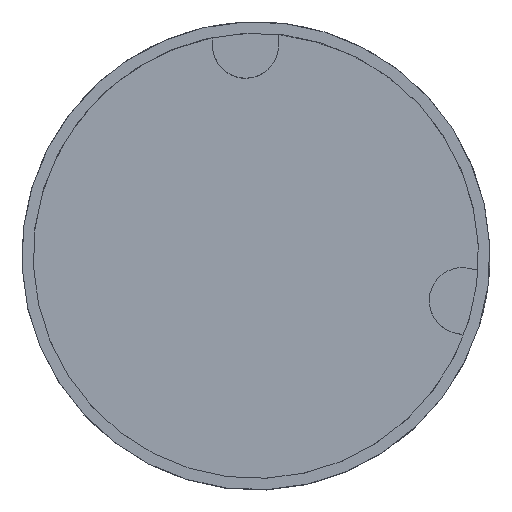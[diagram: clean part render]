
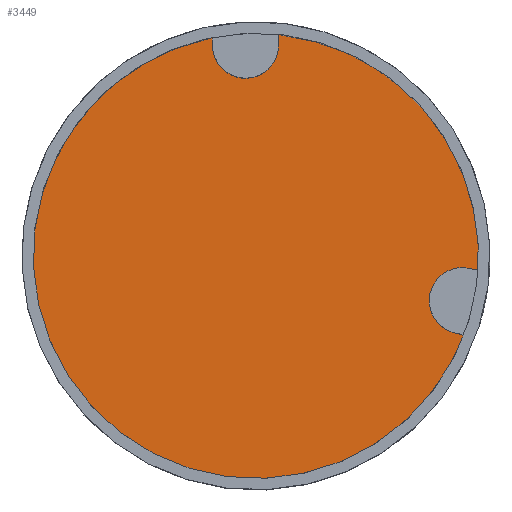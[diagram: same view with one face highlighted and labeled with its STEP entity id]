
A CAD part, top view. The second image highlights one B-rep face of the part: STEP entity #3449.
In plain terms, the highlighted planar face has unit normal (0, 0, 1) as drawn and (0, 0, -1) by its records, which use the part's own axes.
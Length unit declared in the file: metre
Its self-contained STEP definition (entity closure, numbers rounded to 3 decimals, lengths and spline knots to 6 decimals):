
#20 = PLANE ( 'NONE',  #2864 ) ;
#32 = AXIS2_PLACEMENT_3D ( 'NONE', #1833, #3320, #2413 ) ;
#51 = CIRCLE ( 'NONE', #677, 0.0195 ) ;
#165 = CARTESIAN_POINT ( 'NONE',  ( 0., 0., 0.0172 ) ) ;
#179 = VERTEX_POINT ( 'NONE', #1587 ) ;
#206 = AXIS2_PLACEMENT_3D ( 'NONE', #3437, #526, #1392 ) ;
#224 = CARTESIAN_POINT ( 'NONE',  ( -0.01862, -0.001987, 0.0172 ) ) ;
#260 = LINE ( 'NONE', #1312, #2318 ) ;
#424 = ORIENTED_EDGE ( 'NONE', *, *, #1628, .F. ) ;
#435 = CIRCLE ( 'NONE', #3010, 0.0195 ) ;
#472 = DIRECTION ( 'NONE',  ( -0.966, -0.259, 0. ) ) ;
#524 = VERTEX_POINT ( 'NONE', #3164 ) ;
#526 = DIRECTION ( 'NONE',  ( 0., 0., -1. ) ) ;
#545 = CARTESIAN_POINT ( 'NONE',  ( 0., 0., 0.0172 ) ) ;
#547 = VERTEX_POINT ( 'NONE', #224 ) ;
#597 = EDGE_CURVE ( 'NONE', #3571, #179, #435, .T. ) ;
#645 = DIRECTION ( 'NONE',  ( 0., 0., 1. ) ) ;
#677 = AXIS2_PLACEMENT_3D ( 'NONE', #165, #1037, #1010 ) ;
#727 = LINE ( 'NONE', #782, #2684 ) ;
#782 = CARTESIAN_POINT ( 'NONE',  ( -0.0029, 0.018892, 0.0172 ) ) ;
#810 = CIRCLE ( 'NONE', #2734, 0.0195 ) ;
#846 = CARTESIAN_POINT ( 'NONE',  ( 0., 0., 0.0172 ) ) ;
#854 = ORIENTED_EDGE ( 'NONE', *, *, #3785, .F. ) ;
#860 = CIRCLE ( 'NONE', #1585, 0.0195 ) ;
#891 = VERTEX_POINT ( 'NONE', #3602 ) ;
#950 = CARTESIAN_POINT ( 'NONE',  ( -0.0195, 0., 0.0172 ) ) ;
#957 = DIRECTION ( 'NONE',  ( 0., -1., 0. ) ) ;
#984 = CARTESIAN_POINT ( 'NONE',  ( 0.0029, 0.019283, 0.0172 ) ) ;
#1010 = DIRECTION ( 'NONE',  ( -1., 0., 0. ) ) ;
#1014 = EDGE_CURVE ( 'NONE', #3370, #3457, #1949, .T. ) ;
#1037 = DIRECTION ( 'NONE',  ( 0., 0., 1. ) ) ;
#1094 = AXIS2_PLACEMENT_3D ( 'NONE', #2405, #2698, #957 ) ;
#1100 = CIRCLE ( 'NONE', #1094, 0.0029 ) ;
#1228 = EDGE_CURVE ( 'NONE', #3144, #891, #3347, .T. ) ;
#1306 = CARTESIAN_POINT ( 'NONE',  ( 0.0029, 0.018892, 0.0172 ) ) ;
#1312 = CARTESIAN_POINT ( 'NONE',  ( -0.017497, -0.007691, 0.0172 ) ) ;
#1392 = DIRECTION ( 'NONE',  ( 0., -1., 0. ) ) ;
#1395 = EDGE_CURVE ( 'NONE', #2025, #3144, #860, .T. ) ;
#1398 = EDGE_CURVE ( 'NONE', #3564, #3571, #810, .T. ) ;
#1455 = ORIENTED_EDGE ( 'NONE', *, *, #3464, .F. ) ;
#1519 = ORIENTED_EDGE ( 'NONE', *, *, #2904, .F. ) ;
#1552 = ORIENTED_EDGE ( 'NONE', *, *, #1228, .F. ) ;
#1585 = AXIS2_PLACEMENT_3D ( 'NONE', #545, #3118, #3171 ) ;
#1587 = CARTESIAN_POINT ( 'NONE',  ( -0.019377, -0.00219, 0.0172 ) ) ;
#1598 = ORIENTED_EDGE ( 'NONE', *, *, #1395, .F. ) ;
#1628 = EDGE_CURVE ( 'NONE', #3421, #524, #260, .T. ) ;
#1632 = DIRECTION ( 'NONE',  ( 0., 0., 1. ) ) ;
#1685 = VECTOR ( 'NONE', #3750, 1. ) ;
#1750 = DIRECTION ( 'NONE',  ( 1., 0., 0. ) ) ;
#1783 = CIRCLE ( 'NONE', #206, 0.0029 ) ;
#1820 = EDGE_LOOP ( 'NONE', ( #1455, #2520, #2993, #1984, #1519, #3533, #854, #1552, #1598, #2558, #424 ) ) ;
#1833 = CARTESIAN_POINT ( 'NONE',  ( 0., 0.0185, 0.0172 ) ) ;
#1949 = CIRCLE ( 'NONE', #32, 0.0029 ) ;
#1984 = ORIENTED_EDGE ( 'NONE', *, *, #1398, .F. ) ;
#1986 = CARTESIAN_POINT ( 'NONE',  ( 0., 0.0156, 0.0172 ) ) ;
#2025 = VERTEX_POINT ( 'NONE', #2670 ) ;
#2061 = CARTESIAN_POINT ( 'NONE',  ( -0.019734, -0.019733, 0.0172 ) ) ;
#2188 = DIRECTION ( 'NONE',  ( 0., -1., 0. ) ) ;
#2230 = CARTESIAN_POINT ( 'NONE',  ( -0.018998, -0.002088, 0.0172 ) ) ;
#2250 = LINE ( 'NONE', #2230, #1685 ) ;
#2318 = VECTOR ( 'NONE', #472, 1. ) ;
#2405 = CARTESIAN_POINT ( 'NONE',  ( -0.01787, -0.004788, 0.0172 ) ) ;
#2410 = CARTESIAN_POINT ( 'NONE',  ( -0.0029, 0.019283, 0.0172 ) ) ;
#2413 = DIRECTION ( 'NONE',  ( 0., -1., 0. ) ) ;
#2520 = ORIENTED_EDGE ( 'NONE', *, *, #3818, .F. ) ;
#2558 = ORIENTED_EDGE ( 'NONE', *, *, #3715, .F. ) ;
#2564 = CARTESIAN_POINT ( 'NONE',  ( 0., 0., 0.0172 ) ) ;
#2612 = DIRECTION ( 'NONE',  ( -1., 0., 0. ) ) ;
#2670 = CARTESIAN_POINT ( 'NONE',  ( 0.0195, 0., 0.0172 ) ) ;
#2684 = VECTOR ( 'NONE', #2796, 1. ) ;
#2698 = DIRECTION ( 'NONE',  ( 0., 0., -1. ) ) ;
#2734 = AXIS2_PLACEMENT_3D ( 'NONE', #2564, #1632, #2831 ) ;
#2796 = DIRECTION ( 'NONE',  ( 0., 1., 0. ) ) ;
#2831 = DIRECTION ( 'NONE',  ( -1., 0., 0. ) ) ;
#2864 = AXIS2_PLACEMENT_3D ( 'NONE', #2061, #645, #1750 ) ;
#2904 = EDGE_CURVE ( 'NONE', #3457, #3564, #727, .T. ) ;
#2923 = CARTESIAN_POINT ( 'NONE',  ( -0.0029, 0.0185, 0.0172 ) ) ;
#2993 = ORIENTED_EDGE ( 'NONE', *, *, #597, .F. ) ;
#3010 = AXIS2_PLACEMENT_3D ( 'NONE', #846, #3553, #2612 ) ;
#3028 = FACE_OUTER_BOUND ( 'NONE', #1820, .T. ) ;
#3118 = DIRECTION ( 'NONE',  ( 0., 0., 1. ) ) ;
#3144 = VERTEX_POINT ( 'NONE', #984 ) ;
#3164 = CARTESIAN_POINT ( 'NONE',  ( -0.017876, -0.007792, 0.0172 ) ) ;
#3171 = DIRECTION ( 'NONE',  ( -1., 0., 0. ) ) ;
#3320 = DIRECTION ( 'NONE',  ( 0., 0., -1. ) ) ;
#3347 = LINE ( 'NONE', #1306, #3483 ) ;
#3370 = VERTEX_POINT ( 'NONE', #1986 ) ;
#3421 = VERTEX_POINT ( 'NONE', #3565 ) ;
#3437 = CARTESIAN_POINT ( 'NONE',  ( 0., 0.0185, 0.0172 ) ) ;
#3449 = ADVANCED_FACE ( 'NONE', ( #3028 ), #20, .F. ) ;
#3457 = VERTEX_POINT ( 'NONE', #2923 ) ;
#3464 = EDGE_CURVE ( 'NONE', #547, #3421, #1100, .T. ) ;
#3483 = VECTOR ( 'NONE', #2188, 1. ) ;
#3533 = ORIENTED_EDGE ( 'NONE', *, *, #1014, .F. ) ;
#3553 = DIRECTION ( 'NONE',  ( 0., 0., 1. ) ) ;
#3564 = VERTEX_POINT ( 'NONE', #2410 ) ;
#3565 = CARTESIAN_POINT ( 'NONE',  ( -0.017119, -0.007589, 0.0172 ) ) ;
#3571 = VERTEX_POINT ( 'NONE', #950 ) ;
#3602 = CARTESIAN_POINT ( 'NONE',  ( 0.0029, 0.0185, 0.0172 ) ) ;
#3715 = EDGE_CURVE ( 'NONE', #524, #2025, #51, .T. ) ;
#3750 = DIRECTION ( 'NONE',  ( 0.966, 0.259, 0. ) ) ;
#3785 = EDGE_CURVE ( 'NONE', #891, #3370, #1783, .T. ) ;
#3818 = EDGE_CURVE ( 'NONE', #179, #547, #2250, .T. ) ;
